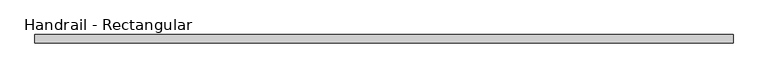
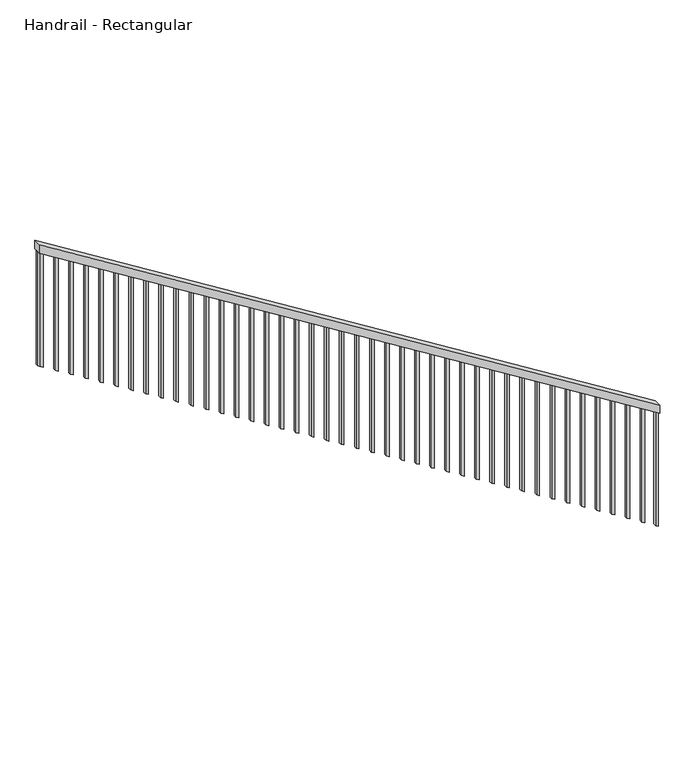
"""IFC4 building model written with IfcOpenShell, lengths in millimetres: railing geometry, Handrail - Rectangular."""

from ifc_helpers import new_model, si_unit, frame, origin, place, context, project, spatial, polyline, outline, extrude, source, transform, mapped, element, save


def handrail_rectangular_f2522c41(model_context):
    return source(origin(), model_context, "Body", "SweptSolid", [
        extrude(outline(polyline([(6340.9378867, 95113.7999465), (6400.8, 95113.7999465), (9013.3714286, 90922.7999465), (8953.5093152, 90922.7999465), (6340.9378867, 95113.7999465)])), frame((0.0, -25086.3748895, 0.0), z_axis=(0.0, 1.0, 0.0), x_axis=(0.0, 0.0, 1.0)), (0.0, 0.0, 1.0), 50.8),
        extrude(outline(polyline([(8943.6132113, 90938.6749465), (8128.6567266, 90938.6749465), (8116.781402, 90957.7249465), (8931.7378867, 90957.7249465), (8943.6132113, 90938.6749465)])), frame((0.0, -25070.4998895, 0.0), z_axis=(0.0, 1.0, 0.0), x_axis=(0.0, 0.0, 1.0)), (0.0, 0.0, 1.0), 19.05),
        extrude(outline(polyline([(8880.2781464, 91040.2749465), (8065.3216617, 91040.2749465), (8053.446337, 91059.3249465), (8868.4028217, 91059.3249465), (8880.2781464, 91040.2749465)])), frame((0.0, -25070.4998895, 0.0), z_axis=(0.0, 1.0, 0.0), x_axis=(0.0, 0.0, 1.0)), (0.0, 0.0, 1.0), 19.05),
        extrude(outline(polyline([(8816.9430815, 91141.8749465), (8001.9865968, 91141.8749465), (7990.1112721, 91160.9249465), (8805.0677568, 91160.9249465), (8816.9430815, 91141.8749465)])), frame((0.0, -25070.4998895, 0.0), z_axis=(0.0, 1.0, 0.0), x_axis=(0.0, 0.0, 1.0)), (0.0, 0.0, 1.0), 19.05),
        extrude(outline(polyline([(8753.6080165, 91243.4749465), (7938.6515318, 91243.4749465), (7926.7762072, 91262.5249465), (8741.7326919, 91262.5249465), (8753.6080165, 91243.4749465)])), frame((0.0, -25070.4998895, 0.0), z_axis=(0.0, 1.0, 0.0), x_axis=(0.0, 0.0, 1.0)), (0.0, 0.0, 1.0), 19.05),
        extrude(outline(polyline([(8690.2729516, 91345.0749465), (7875.3164669, 91345.0749465), (7863.4411422, 91364.1249465), (8678.3976269, 91364.1249465), (8690.2729516, 91345.0749465)])), frame((0.0, -25070.4998895, 0.0), z_axis=(0.0, 1.0, 0.0), x_axis=(0.0, 0.0, 1.0)), (0.0, 0.0, 1.0), 19.05),
        extrude(outline(polyline([(8626.9378867, 91446.6749465), (7811.981402, 91446.6749465), (7800.1060773, 91465.7249465), (8615.062562, 91465.7249465), (8626.9378867, 91446.6749465)])), frame((0.0, -25070.4998895, 0.0), z_axis=(0.0, 1.0, 0.0), x_axis=(0.0, 0.0, 1.0)), (0.0, 0.0, 1.0), 19.05),
        extrude(outline(polyline([(8563.6028217, 91548.2749465), (7748.646337, 91548.2749465), (7736.7710124, 91567.3249465), (8551.7274971, 91567.3249465), (8563.6028217, 91548.2749465)])), frame((0.0, -25070.4998895, 0.0), z_axis=(0.0, 1.0, 0.0), x_axis=(0.0, 0.0, 1.0)), (0.0, 0.0, 1.0), 19.05),
        extrude(outline(polyline([(8500.2677568, 91649.8749465), (7685.3112721, 91649.8749465), (7673.4359474, 91668.9249465), (8488.3924321, 91668.9249465), (8500.2677568, 91649.8749465)])), frame((0.0, -25070.4998895, 0.0), z_axis=(0.0, 1.0, 0.0), x_axis=(0.0, 0.0, 1.0)), (0.0, 0.0, 1.0), 19.05),
        extrude(outline(polyline([(8436.9326919, 91751.4749465), (7621.9762072, 91751.4749465), (7610.1008825, 91770.5249465), (8425.0573672, 91770.5249465), (8436.9326919, 91751.4749465)])), frame((0.0, -25070.4998895, 0.0), z_axis=(0.0, 1.0, 0.0), x_axis=(0.0, 0.0, 1.0)), (0.0, 0.0, 1.0), 19.05),
        extrude(outline(polyline([(8373.5976269, 91853.0749465), (7558.6411422, 91853.0749465), (7546.7658175, 91872.1249465), (8361.7223023, 91872.1249465), (8373.5976269, 91853.0749465)])), frame((0.0, -25070.4998895, 0.0), z_axis=(0.0, 1.0, 0.0), x_axis=(0.0, 0.0, 1.0)), (0.0, 0.0, 1.0), 19.05),
        extrude(outline(polyline([(8310.262562, 91954.6749465), (7495.3060773, 91954.6749465), (7483.4307526, 91973.7249465), (8298.3872373, 91973.7249465), (8310.262562, 91954.6749465)])), frame((0.0, -25070.4998895, 0.0), z_axis=(0.0, 1.0, 0.0), x_axis=(0.0, 0.0, 1.0)), (0.0, 0.0, 1.0), 19.05),
        extrude(outline(polyline([(8246.9274971, 92056.2749465), (7431.9710124, 92056.2749465), (7420.0956877, 92075.3249465), (8235.0521724, 92075.3249465), (8246.9274971, 92056.2749465)])), frame((0.0, -25070.4998895, 0.0), z_axis=(0.0, 1.0, 0.0), x_axis=(0.0, 0.0, 1.0)), (0.0, 0.0, 1.0), 19.05),
        extrude(outline(polyline([(8183.5924321, 92157.8749465), (7368.6359474, 92157.8749465), (7356.7606227, 92176.9249465), (8171.7171074, 92176.9249465), (8183.5924321, 92157.8749465)])), frame((0.0, -25070.4998895, 0.0), z_axis=(0.0, 1.0, 0.0), x_axis=(0.0, 0.0, 1.0)), (0.0, 0.0, 1.0), 19.05),
        extrude(outline(polyline([(8120.2573672, 92259.4749465), (7305.3008825, 92259.4749465), (7293.4255578, 92278.5249465), (8108.3820425, 92278.5249465), (8120.2573672, 92259.4749465)])), frame((0.0, -25070.4998895, 0.0), z_axis=(0.0, 1.0, 0.0), x_axis=(0.0, 0.0, 1.0)), (0.0, 0.0, 1.0), 19.05),
        extrude(outline(polyline([(8056.9223023, 92361.0749465), (7241.9658175, 92361.0749465), (7230.0904929, 92380.1249465), (8045.0469776, 92380.1249465), (8056.9223023, 92361.0749465)])), frame((0.0, -25070.4998895, 0.0), z_axis=(0.0, 1.0, 0.0), x_axis=(0.0, 0.0, 1.0)), (0.0, 0.0, 1.0), 19.05),
        extrude(outline(polyline([(7993.5872373, 92462.6749465), (7178.6307526, 92462.6749465), (7166.7554279, 92481.7249465), (7981.7119126, 92481.7249465), (7993.5872373, 92462.6749465)])), frame((0.0, -25070.4998895, 0.0), z_axis=(0.0, 1.0, 0.0), x_axis=(0.0, 0.0, 1.0)), (0.0, 0.0, 1.0), 19.05),
        extrude(outline(polyline([(7930.2521724, 92564.2749465), (7115.2956877, 92564.2749465), (7103.420363, 92583.3249465), (7918.3768477, 92583.3249465), (7930.2521724, 92564.2749465)])), frame((0.0, -25070.4998895, 0.0), z_axis=(0.0, 1.0, 0.0), x_axis=(0.0, 0.0, 1.0)), (0.0, 0.0, 1.0), 19.05),
        extrude(outline(polyline([(7866.9171074, 92665.8749465), (7051.9606227, 92665.8749465), (7040.0852981, 92684.9249465), (7855.0417828, 92684.9249465), (7866.9171074, 92665.8749465)])), frame((0.0, -25070.4998895, 0.0), z_axis=(0.0, 1.0, 0.0), x_axis=(0.0, 0.0, 1.0)), (0.0, 0.0, 1.0), 19.05),
        extrude(outline(polyline([(7803.5820425, 92767.4749465), (6988.6255578, 92767.4749465), (6976.7502331, 92786.5249465), (7791.7067178, 92786.5249465), (7803.5820425, 92767.4749465)])), frame((0.0, -25070.4998895, 0.0), z_axis=(0.0, 1.0, 0.0), x_axis=(0.0, 0.0, 1.0)), (0.0, 0.0, 1.0), 19.05),
        extrude(outline(polyline([(7740.2469776, 92869.0749465), (6925.2904929, 92869.0749465), (6913.4151682, 92888.1249465), (7728.3716529, 92888.1249465), (7740.2469776, 92869.0749465)])), frame((0.0, -25070.4998895, 0.0), z_axis=(0.0, 1.0, 0.0), x_axis=(0.0, 0.0, 1.0)), (0.0, 0.0, 1.0), 19.05),
        extrude(outline(polyline([(7676.9119126, 92970.6749465), (6861.9554279, 92970.6749465), (6850.0801033, 92989.7249465), (7665.036588, 92989.7249465), (7676.9119126, 92970.6749465)])), frame((0.0, -25070.4998895, 0.0), z_axis=(0.0, 1.0, 0.0), x_axis=(0.0, 0.0, 1.0)), (0.0, 0.0, 1.0), 19.05),
        extrude(outline(polyline([(7613.5768477, 93072.2749465), (6798.620363, 93072.2749465), (6786.7450383, 93091.3249465), (7601.701523, 93091.3249465), (7613.5768477, 93072.2749465)])), frame((0.0, -25070.4998895, 0.0), z_axis=(0.0, 1.0, 0.0), x_axis=(0.0, 0.0, 1.0)), (0.0, 0.0, 1.0), 19.05),
        extrude(outline(polyline([(7550.2417828, 93173.8749465), (6735.2852981, 93173.8749465), (6723.4099734, 93192.9249465), (7538.3664581, 93192.9249465), (7550.2417828, 93173.8749465)])), frame((0.0, -25070.4998895, 0.0), z_axis=(0.0, 1.0, 0.0), x_axis=(0.0, 0.0, 1.0)), (0.0, 0.0, 1.0), 19.05),
        extrude(outline(polyline([(7486.9067178, 93275.4749465), (6671.9502331, 93275.4749465), (6660.0749085, 93294.5249465), (7475.0313932, 93294.5249465), (7486.9067178, 93275.4749465)])), frame((0.0, -25070.4998895, 0.0), z_axis=(0.0, 1.0, 0.0), x_axis=(0.0, 0.0, 1.0)), (0.0, 0.0, 1.0), 19.05),
        extrude(outline(polyline([(7423.5716529, 93377.0749465), (6608.6151682, 93377.0749465), (6596.7398435, 93396.1249465), (7411.6963282, 93396.1249465), (7423.5716529, 93377.0749465)])), frame((0.0, -25070.4998895, 0.0), z_axis=(0.0, 1.0, 0.0), x_axis=(0.0, 0.0, 1.0)), (0.0, 0.0, 1.0), 19.05),
        extrude(outline(polyline([(7360.236588, 93478.6749465), (6545.2801033, 93478.6749465), (6533.4047786, 93497.7249465), (7348.3612633, 93497.7249465), (7360.236588, 93478.6749465)])), frame((0.0, -25070.4998895, 0.0), z_axis=(0.0, 1.0, 0.0), x_axis=(0.0, 0.0, 1.0)), (0.0, 0.0, 1.0), 19.05),
        extrude(outline(polyline([(7296.901523, 93580.2749465), (6481.9450383, 93580.2749465), (6470.0697137, 93599.3249465), (7285.0261984, 93599.3249465), (7296.901523, 93580.2749465)])), frame((0.0, -25070.4998895, 0.0), z_axis=(0.0, 1.0, 0.0), x_axis=(0.0, 0.0, 1.0)), (0.0, 0.0, 1.0), 19.05),
        extrude(outline(polyline([(7233.5664581, 93681.8749465), (6418.6099734, 93681.8749465), (6406.7346487, 93700.9249465), (7221.6911334, 93700.9249465), (7233.5664581, 93681.8749465)])), frame((0.0, -25070.4998895, 0.0), z_axis=(0.0, 1.0, 0.0), x_axis=(0.0, 0.0, 1.0)), (0.0, 0.0, 1.0), 19.05),
        extrude(outline(polyline([(7170.2313932, 93783.4749465), (6355.2749085, 93783.4749465), (6343.3995838, 93802.5249465), (7158.3560685, 93802.5249465), (7170.2313932, 93783.4749465)])), frame((0.0, -25070.4998895, 0.0), z_axis=(0.0, 1.0, 0.0), x_axis=(0.0, 0.0, 1.0)), (0.0, 0.0, 1.0), 19.05),
        extrude(outline(polyline([(7106.8963282, 93885.0749465), (6291.9398435, 93885.0749465), (6280.0645188, 93904.1249465), (7095.0210036, 93904.1249465), (7106.8963282, 93885.0749465)])), frame((0.0, -25070.4998895, 0.0), z_axis=(0.0, 1.0, 0.0), x_axis=(0.0, 0.0, 1.0)), (0.0, 0.0, 1.0), 19.05),
        extrude(outline(polyline([(7043.5612633, 93986.6749465), (6228.6047786, 93986.6749465), (6216.7294539, 94005.7249465), (7031.6859386, 94005.7249465), (7043.5612633, 93986.6749465)])), frame((0.0, -25070.4998895, 0.0), z_axis=(0.0, 1.0, 0.0), x_axis=(0.0, 0.0, 1.0)), (0.0, 0.0, 1.0), 19.05),
        extrude(outline(polyline([(6980.2261984, 94088.2749465), (6165.2697137, 94088.2749465), (6153.394389, 94107.3249465), (6968.3508737, 94107.3249465), (6980.2261984, 94088.2749465)])), frame((0.0, -25070.4998895, 0.0), z_axis=(0.0, 1.0, 0.0), x_axis=(0.0, 0.0, 1.0)), (0.0, 0.0, 1.0), 19.05),
        extrude(outline(polyline([(6916.8911334, 94189.8749465), (6101.9346487, 94189.8749465), (6090.059324, 94208.9249465), (6905.0158087, 94208.9249465), (6916.8911334, 94189.8749465)])), frame((0.0, -25070.4998895, 0.0), z_axis=(0.0, 1.0, 0.0), x_axis=(0.0, 0.0, 1.0)), (0.0, 0.0, 1.0), 19.05),
        extrude(outline(polyline([(6853.5560685, 94291.4749465), (6038.5995838, 94291.4749465), (6026.7242591, 94310.5249465), (6841.6807438, 94310.5249465), (6853.5560685, 94291.4749465)])), frame((0.0, -25070.4998895, 0.0), z_axis=(0.0, 1.0, 0.0), x_axis=(0.0, 0.0, 1.0)), (0.0, 0.0, 1.0), 19.05),
        extrude(outline(polyline([(6790.2210036, 94393.0749465), (5975.2645188, 94393.0749465), (5963.3891942, 94412.1249465), (6778.3456789, 94412.1249465), (6790.2210036, 94393.0749465)])), frame((0.0, -25070.4998895, 0.0), z_axis=(0.0, 1.0, 0.0), x_axis=(0.0, 0.0, 1.0)), (0.0, 0.0, 1.0), 19.05),
        extrude(outline(polyline([(6726.8859386, 94494.6749465), (5911.9294539, 94494.6749465), (5900.0541292, 94513.7249465), (6715.0106139, 94513.7249465), (6726.8859386, 94494.6749465)])), frame((0.0, -25070.4998895, 0.0), z_axis=(0.0, 1.0, 0.0), x_axis=(0.0, 0.0, 1.0)), (0.0, 0.0, 1.0), 19.05),
        extrude(outline(polyline([(6663.5508737, 94596.2749465), (5848.594389, 94596.2749465), (5836.7190643, 94615.3249465), (6651.675549, 94615.3249465), (6663.5508737, 94596.2749465)])), frame((0.0, -25070.4998895, 0.0), z_axis=(0.0, 1.0, 0.0), x_axis=(0.0, 0.0, 1.0)), (0.0, 0.0, 1.0), 19.05),
        extrude(outline(polyline([(6600.2158087, 94697.8749465), (5785.259324, 94697.8749465), (5773.3839994, 94716.9249465), (6588.3404841, 94716.9249465), (6600.2158087, 94697.8749465)])), frame((0.0, -25070.4998895, 0.0), z_axis=(0.0, 1.0, 0.0), x_axis=(0.0, 0.0, 1.0)), (0.0, 0.0, 1.0), 19.05),
        extrude(outline(polyline([(6536.8807438, 94799.4749465), (5721.9242591, 94799.4749465), (5710.0489344, 94818.5249465), (6525.0054191, 94818.5249465), (6536.8807438, 94799.4749465)])), frame((0.0, -25070.4998895, 0.0), z_axis=(0.0, 1.0, 0.0), x_axis=(0.0, 0.0, 1.0)), (0.0, 0.0, 1.0), 19.05),
        extrude(outline(polyline([(6473.5456789, 94901.0749465), (5658.5891942, 94901.0749465), (5646.7138695, 94920.1249465), (6461.6703542, 94920.1249465), (6473.5456789, 94901.0749465)])), frame((0.0, -25070.4998895, 0.0), z_axis=(0.0, 1.0, 0.0), x_axis=(0.0, 0.0, 1.0)), (0.0, 0.0, 1.0), 19.05),
        extrude(outline(polyline([(6410.2106139, 95002.6749465), (5595.2541292, 95002.6749465), (5583.3788046, 95021.7249465), (6398.3352893, 95021.7249465), (6410.2106139, 95002.6749465)])), frame((0.0, -25070.4998895, 0.0), z_axis=(0.0, 1.0, 0.0), x_axis=(0.0, 0.0, 1.0)), (0.0, 0.0, 1.0), 19.05),
        extrude(outline(polyline([(8953.5093152, 90922.7999465), (8138.5528305, 90922.7999465), (8126.6775059, 90941.8499465), (8941.6339906, 90941.8499465), (8953.5093152, 90922.7999465)])), frame((0.0, -25070.4998895, 0.0), z_axis=(0.0, 1.0, 0.0), x_axis=(0.0, 0.0, 1.0)), (0.0, 0.0, 1.0), 19.05),
        extrude(outline(polyline([(6352.8132113, 95094.7499465), (5537.8567266, 95094.7499465), (5525.981402, 95113.7999465), (6340.9378867, 95113.7999465), (6352.8132113, 95094.7499465)])), frame((0.0, -25070.4998895, 0.0), z_axis=(0.0, 1.0, 0.0), x_axis=(0.0, 0.0, 1.0)), (0.0, 0.0, 1.0), 19.05),
    ])


if __name__ == "__main__":
    model = new_model("IFC4")
    model_context = context("Model", 3, world=origin())
    ifc_project = project(units=[si_unit("LENGTHUNIT", "METRE", prefix="MILLI")], contexts=[model_context])
    site = spatial("IfcSite", under=ifc_project)
    building = spatial("IfcBuilding", under=site)
    placement = place(None, origin())
    handrail_rectangular_shape = handrail_rectangular_f2522c41(model_context)
    element("IfcRailing", 1, ObjectType="Handrail - Rectangular", at=placement, inside=building, context=model_context, shape_type="MappedRepresentation", body=[
        mapped(handrail_rectangular_shape, transform((0.0, 0.0, 0.0), x_axis=(1.0, 0.0, 0.0), y_axis=(0.0, 1.0, 0.0), z_axis=(0.0, 0.0, 1.0))),
    ])
    save(model, "model.ifc")
